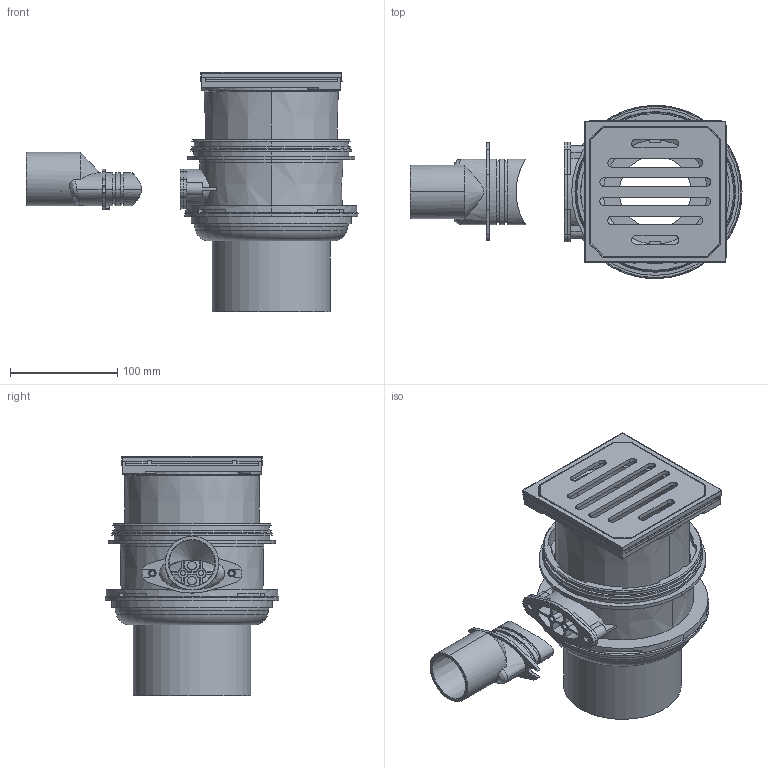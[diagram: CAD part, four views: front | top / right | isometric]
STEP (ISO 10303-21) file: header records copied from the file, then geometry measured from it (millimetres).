
FILE_DESCRIPTION(/* description */ (''),/* implementation_level */ '2;1');
FILE_NAME(/* name */ 'G:\WM_GmbH\Planerdaten\Work\EXPORT\Fertig zum Export\Bodenabl. u. Div.\stp\388022.stp',/* time_stamp */ '2017-06-27T10:27:26+02:00',/* author */ ('seihe2'),/* organization */ (''),/* preprocessor_version */ 'ST-DEVELOPER v15.2',/* originating_system */ 'Autodesk Inventor 2014',/* authorisation */ '');
FILE_SCHEMA (('AUTOMOTIVE_DESIGN { 1 0 10303 214 3 1 1 }'));
Length unit declared in the file: millimetre
Products named in the file (1): 388022
Bounding box: 310 x 162 x 223.2 mm (x, y, z)
Volume: 645332.6 mm3; surface area: 423282.2 mm2
Topology: 8 solids, 8 shells, 937 faces, 2570 edges, 1672 vertices
Faces by surface type: plane 511, cylinder 170, cone 110, bspline 108, torus 33, sphere 5
Full cylindrical faces by diameter (mm): 101.003 x1, 110 x1, 135 x3, 145 x4, 153 x1
Entity records: 35938 total; most frequent: CARTESIAN_POINT 12093, ORIENTED_EDGE 5038, DIRECTION 4332, EDGE_CURVE 2519, VERTEX_POINT 1660, LINE 1458, VECTOR 1458, AXIS2_PLACEMENT_3D 1437
